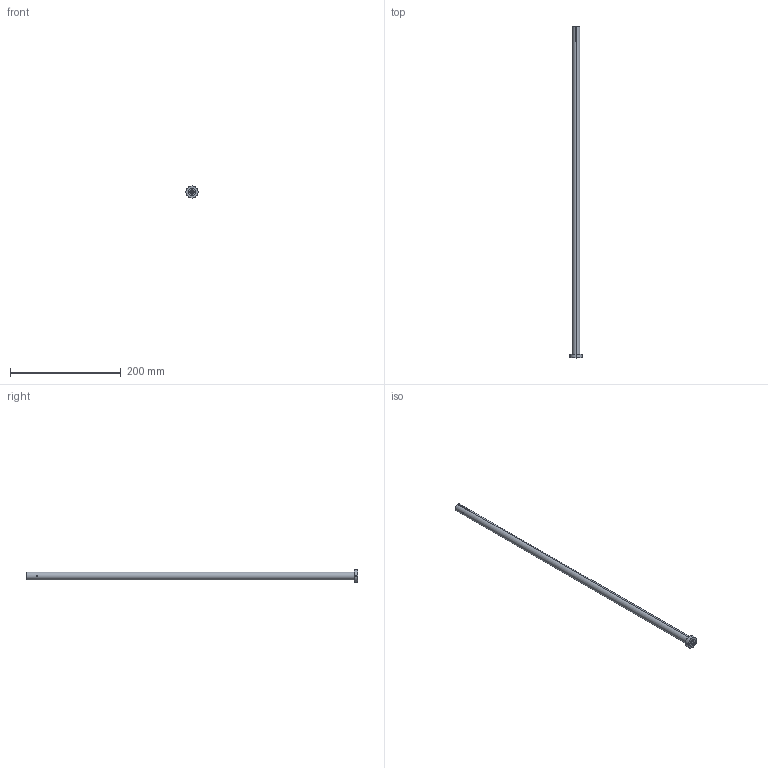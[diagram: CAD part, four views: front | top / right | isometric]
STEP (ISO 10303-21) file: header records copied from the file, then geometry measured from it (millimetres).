
FILE_DESCRIPTION (( 'STEP AP203' ), '1' );
FILE_NAME ('SGDE-1408x600.STEP', '2019-09-30T12:40:15', ( '' ), ( '' ), 'SwSTEP 2.0', 'SolidWorks 2019', '' );
FILE_SCHEMA (( 'CONFIG_CONTROL_DESIGN' ));
Length unit declared in the file: millimetre
Products named in the file (1): SGDE-1408x600
Bounding box: 22 x 600.8 x 22 mm (x, y, z)
Volume: 72222.3 mm3; surface area: 41251.4 mm2
Topology: 1 solids, 1 shells, 84 faces, 234 edges, 154 vertices
Faces by surface type: cylinder 48, plane 32, cone 4
Entity records: 3433 total; most frequent: CARTESIAN_POINT 1197, ORIENTED_EDGE 468, DIRECTION 422, EDGE_CURVE 234, AXIS2_PLACEMENT_3D 155, VERTEX_POINT 154, LINE 112, VECTOR 112
